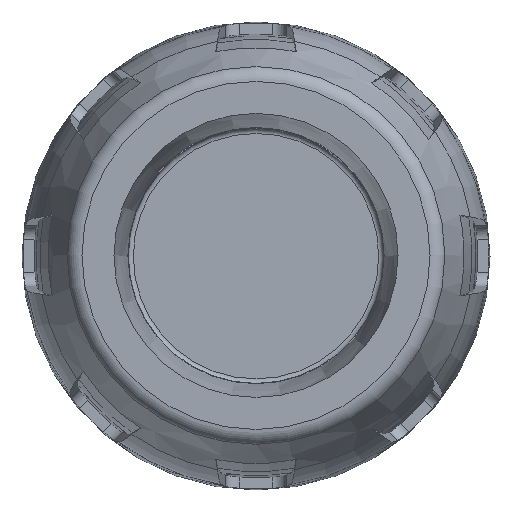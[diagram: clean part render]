
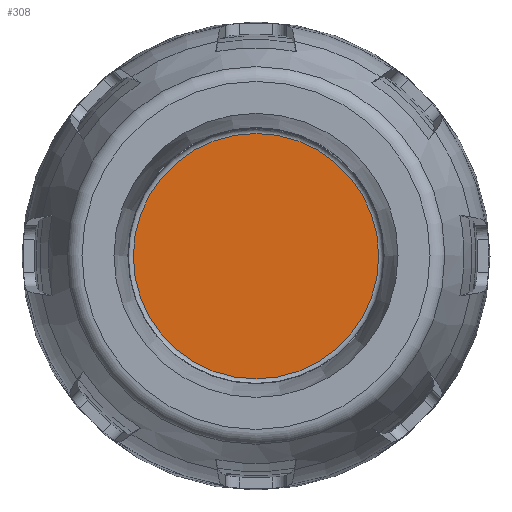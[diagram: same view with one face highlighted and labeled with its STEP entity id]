
A CAD part, top view. The second image highlights one B-rep face of the part: STEP entity #308.
In plain terms, the highlighted planar face has unit normal (0, 0, 1).
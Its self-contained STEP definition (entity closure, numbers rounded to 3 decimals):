
#308 = ADVANCED_FACE( '', ( #816 ), #817, .F. );
#816 = FACE_OUTER_BOUND( '', #1627, .T. );
#817 = PLANE( '', #1628 );
#1627 = EDGE_LOOP( '', ( #2746 ) );
#1628 = AXIS2_PLACEMENT_3D( '', #2747, #2748, #2749 );
#2746 = ORIENTED_EDGE( '', *, *, #4775, .T. );
#2747 = CARTESIAN_POINT( '', ( -19.55, 0., -46.5 ) );
#2748 = DIRECTION( '', ( 0., 0., -1. ) );
#2749 = DIRECTION( '', ( 0., 1., 0. ) );
#4775 = EDGE_CURVE( '', #5695, #5695, #5696, .T. );
#5695 = VERTEX_POINT( '', #7143 );
#5696 = CIRCLE( '', #7144, 19.55 );
#7143 = CARTESIAN_POINT( '', ( 0., -19.55, -46.5 ) );
#7144 = AXIS2_PLACEMENT_3D( '', #9486, #9487, #9488 );
#9486 = CARTESIAN_POINT( '', ( 0., 0., -46.5 ) );
#9487 = DIRECTION( '', ( 0., 0., 1. ) );
#9488 = DIRECTION( '', ( 0., -1., 0. ) );
